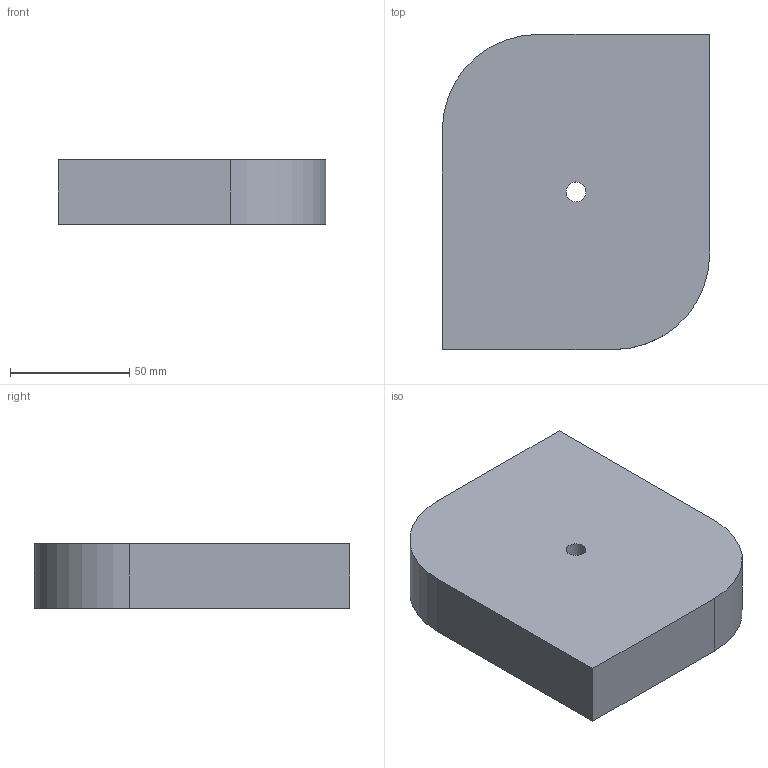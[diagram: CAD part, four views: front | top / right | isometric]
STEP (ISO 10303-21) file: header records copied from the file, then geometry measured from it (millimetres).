
FILE_DESCRIPTION(('CATIA V5 STEP Exchange'),'2;1');
FILE_NAME('C:\_Andres\UNIVERSIDAD\IQS\ASIGNATURAS\DAO\EXF\EXF-15161c\1original\Sala_García_Ej01-plano_v22.stp','2016-03-04T14:59:46+00:00',('none'),('none'),'CATIA Version 5 Release 20 SP 1 (IN-10)','CATIA V5 STEP AP203','none');
FILE_SCHEMA(('CONFIG_CONTROL_DESIGN'));
Length unit declared in the file: millimetre
Products named in the file (1): Sala_García_Ej01-plano_v22
Bounding box: 112 x 132 x 27 mm (x, y, z)
Volume: 379138.7 mm3; surface area: 41043.7 mm2
Topology: 1 solids, 1 shells, 10 faces, 24 edges, 16 vertices
Faces by surface type: plane 6, cylinder 4
Entity records: 333 total; most frequent: CARTESIAN_POINT 51, ORIENTED_EDGE 48, DIRECTION 44, EDGE_CURVE 24, AXIS2_PLACEMENT_3D 19, VECTOR 16, LINE 16, VERTEX_POINT 16
